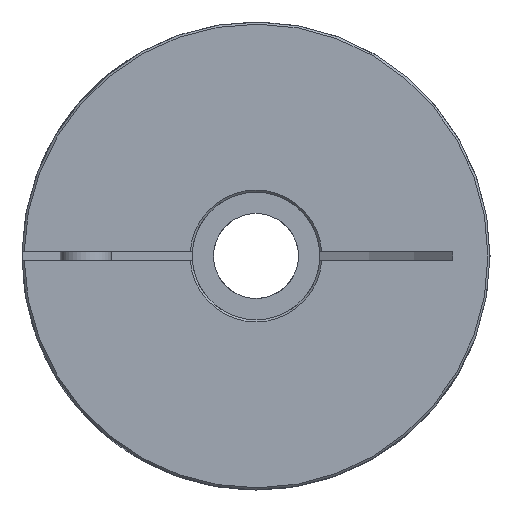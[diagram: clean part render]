
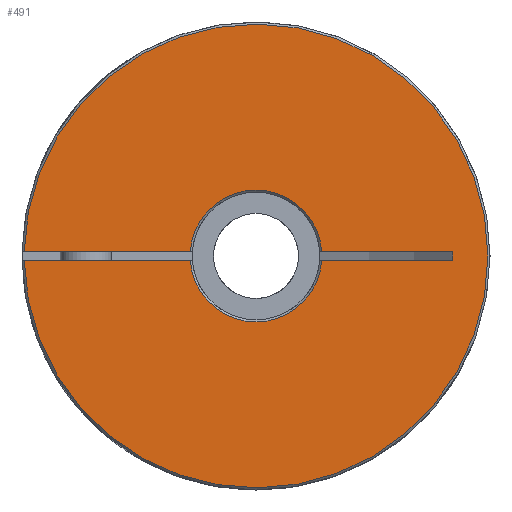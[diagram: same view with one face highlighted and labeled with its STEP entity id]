
A CAD part, left-side view. The second image highlights one B-rep face of the part: STEP entity #491.
In plain terms, the highlighted planar face has unit normal (-1, 0, 0).
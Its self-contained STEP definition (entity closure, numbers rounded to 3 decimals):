
#491 = ADVANCED_FACE( 'NONE', ( #1025 ), #1026, .F. );
#1025 = FACE_OUTER_BOUND( '', #1621, .T. );
#1026 = PLANE( '', #1622 );
#1621 = EDGE_LOOP( '', ( #2601, #2602, #2603, #2604, #2605, #2606, #2607, #2608 ) );
#1622 = AXIS2_PLACEMENT_3D( '', #2609, #2610, #2611 );
#2601 = ORIENTED_EDGE( '', *, *, #3307, .T. );
#2602 = ORIENTED_EDGE( '', *, *, #3499, .T. );
#2603 = ORIENTED_EDGE( '', *, *, #3413, .T. );
#2604 = ORIENTED_EDGE( '', *, *, #3215, .T. );
#2605 = ORIENTED_EDGE( '', *, *, #3444, .F. );
#2606 = ORIENTED_EDGE( '', *, *, #3325, .T. );
#2607 = ORIENTED_EDGE( '', *, *, #3427, .F. );
#2608 = ORIENTED_EDGE( '', *, *, #3183, .T. );
#2609 = CARTESIAN_POINT( '', ( 0., 15., 0. ) );
#2610 = DIRECTION( '', ( 1., 0., 0. ) );
#2611 = DIRECTION( '', ( 0., 1., 0. ) );
#3183 = EDGE_CURVE( 'NONE', #3705, #3709, #3711, .T. );
#3215 = EDGE_CURVE( 'NONE', #3758, #3759, #3760, .F. );
#3307 = EDGE_CURVE( 'NONE', #3709, #3908, #3910, .T. );
#3325 = EDGE_CURVE( 'NONE', #3940, #3938, #3941, .T. );
#3413 = EDGE_CURVE( 'NONE', #4076, #3758, #4077, .T. );
#3427 = EDGE_CURVE( 'NONE', #3705, #3938, #4095, .F. );
#3444 = EDGE_CURVE( 'NONE', #3940, #3759, #4118, .F. );
#3499 = EDGE_CURVE( 'NONE', #3908, #4076, #4194, .T. );
#3705 = VERTEX_POINT( 'NONE', #4608 );
#3709 = VERTEX_POINT( 'NONE', #4615 );
#3711 = LINE( '', #4617, #4618 );
#3758 = VERTEX_POINT( 'NONE', #4668 );
#3759 = VERTEX_POINT( 'NONE', #4669 );
#3760 = CIRCLE( '', #4670, 54.5 );
#3908 = VERTEX_POINT( 'NONE', #4937 );
#3910 = LINE( '', #4942, #4943 );
#3938 = VERTEX_POINT( 'NONE', #4975 );
#3940 = VERTEX_POINT( 'NONE', #4980 );
#3941 = CIRCLE( '', #4981, 15.5 );
#4076 = VERTEX_POINT( 'NONE', #5138 );
#4077 = LINE( '', #5139, #5140 );
#4095 = LINE( '', #5162, #5163 );
#4118 = LINE( '', #5283, #5284 );
#4194 = CIRCLE( '', #5370, 15.5 );
#4608 = CARTESIAN_POINT( '', ( 0., 46.303, -1. ) );
#4615 = CARTESIAN_POINT( '', ( 0., 46.303, 1. ) );
#4617 = CARTESIAN_POINT( '', ( 0., 46.303, -1. ) );
#4618 = VECTOR( '', #5597, 1000. );
#4668 = CARTESIAN_POINT( '', ( 0., -54.491, 1. ) );
#4669 = CARTESIAN_POINT( '', ( 0., -54.491, -1. ) );
#4670 = AXIS2_PLACEMENT_3D( '', #5649, #5650, #5651 );
#4937 = CARTESIAN_POINT( '', ( 0., 15.468, 1. ) );
#4942 = CARTESIAN_POINT( '', ( 0., 15., 1. ) );
#4943 = VECTOR( '', #5783, 1000. );
#4975 = CARTESIAN_POINT( '', ( 0., 15.468, -1. ) );
#4980 = CARTESIAN_POINT( '', ( 0., -15.468, -1. ) );
#4981 = AXIS2_PLACEMENT_3D( '', #5809, #5810, #5811 );
#5138 = CARTESIAN_POINT( '', ( 0., -15.468, 1. ) );
#5139 = CARTESIAN_POINT( '', ( 0., 15., 1. ) );
#5140 = VECTOR( '', #5948, 1000. );
#5162 = CARTESIAN_POINT( '', ( 0., -15., -1. ) );
#5163 = VECTOR( '', #5968, 1000. );
#5283 = CARTESIAN_POINT( '', ( 0., -15., -1. ) );
#5284 = VECTOR( '', #5992, 1000. );
#5370 = AXIS2_PLACEMENT_3D( '', #6081, #6082, #6083 );
#5597 = DIRECTION( '', ( 0., 0., 1. ) );
#5649 = CARTESIAN_POINT( '', ( 0., 0., 0. ) );
#5650 = DIRECTION( '', ( 1., 0., 0. ) );
#5651 = DIRECTION( '', ( 0., 0., -1. ) );
#5783 = DIRECTION( '', ( 0., -1., 0. ) );
#5809 = CARTESIAN_POINT( '', ( 0., 0., 0. ) );
#5810 = DIRECTION( '', ( 1., 0., 0. ) );
#5811 = DIRECTION( '', ( 0., 0., -1. ) );
#5948 = DIRECTION( '', ( 0., -1., 0. ) );
#5968 = DIRECTION( '', ( 0., 1., 0. ) );
#5992 = DIRECTION( '', ( 0., 1., 0. ) );
#6081 = CARTESIAN_POINT( '', ( 0., 0., 0. ) );
#6082 = DIRECTION( '', ( 1., 0., 0. ) );
#6083 = DIRECTION( '', ( 0., 0., -1. ) );
